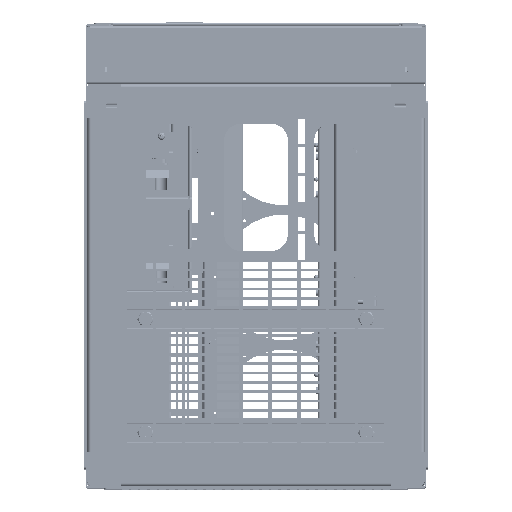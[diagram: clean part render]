
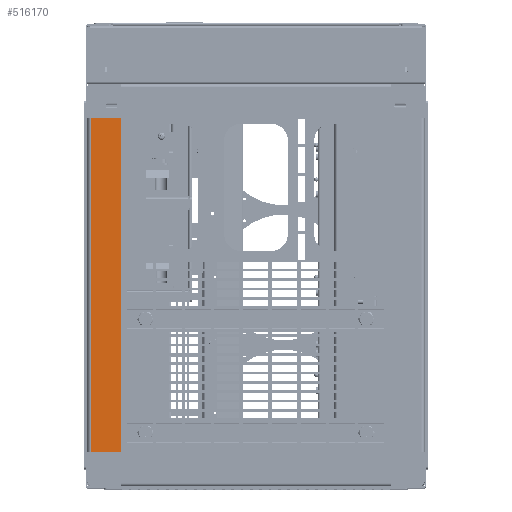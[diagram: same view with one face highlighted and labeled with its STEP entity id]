
A CAD part, top view. The second image highlights one B-rep face of the part: STEP entity #516170.
In plain terms, the highlighted planar face has unit normal (0, 0, 1).
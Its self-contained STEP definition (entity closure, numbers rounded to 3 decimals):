
#515915=DIRECTION('',(-1.,0.,0.));
#515916=VECTOR('',#515915,36.);
#515917=CARTESIAN_POINT('',(-158.5,42.,0.));
#515918=LINE('',#515917,#515916);
#515919=DIRECTION('',(1.,0.,0.));
#515920=VECTOR('',#515919,36.);
#515921=CARTESIAN_POINT('',(-194.5,436.,0.));
#515922=LINE('',#515921,#515920);
#515923=DIRECTION('',(0.,-1.,0.));
#515924=VECTOR('',#515923,394.);
#515925=CARTESIAN_POINT('',(-158.5,436.,0.));
#515926=LINE('',#515925,#515924);
#515927=DIRECTION('',(0.,-1.,0.));
#515928=VECTOR('',#515927,394.);
#515929=CARTESIAN_POINT('',(-194.5,436.,0.));
#515930=LINE('',#515929,#515928);
#516041=CARTESIAN_POINT('',(-158.5,42.,0.));
#516042=CARTESIAN_POINT('',(-194.5,42.,0.));
#516043=VERTEX_POINT('',#516041);
#516044=VERTEX_POINT('',#516042);
#516045=CARTESIAN_POINT('',(-194.5,436.,0.));
#516046=VERTEX_POINT('',#516045);
#516047=CARTESIAN_POINT('',(-158.5,436.,0.));
#516048=VERTEX_POINT('',#516047);
#516156=CARTESIAN_POINT('',(-198.5,42.,0.));
#516157=DIRECTION('',(0.,0.,1.));
#516158=DIRECTION('',(0.,-1.,0.));
#516159=AXIS2_PLACEMENT_3D('',#516156,#516157,#516158);
#516160=PLANE('',#516159);
#516161=ORIENTED_EDGE('',*,*,#516139,.T.);
#516163=ORIENTED_EDGE('',*,*,#516162,.F.);
#516165=ORIENTED_EDGE('',*,*,#516164,.T.);
#516167=ORIENTED_EDGE('',*,*,#516166,.T.);
#516168=EDGE_LOOP('',(#516161,#516163,#516165,#516167));
#516169=FACE_OUTER_BOUND('',#516168,.F.);
#516170=ADVANCED_FACE('',(#516169),#516160,.T.);
#516139=EDGE_CURVE('',#516043,#516044,#515918,.T.);
#516162=EDGE_CURVE('',#516046,#516044,#515930,.T.);
#516164=EDGE_CURVE('',#516046,#516048,#515922,.T.);
#516166=EDGE_CURVE('',#516048,#516043,#515926,.T.);
